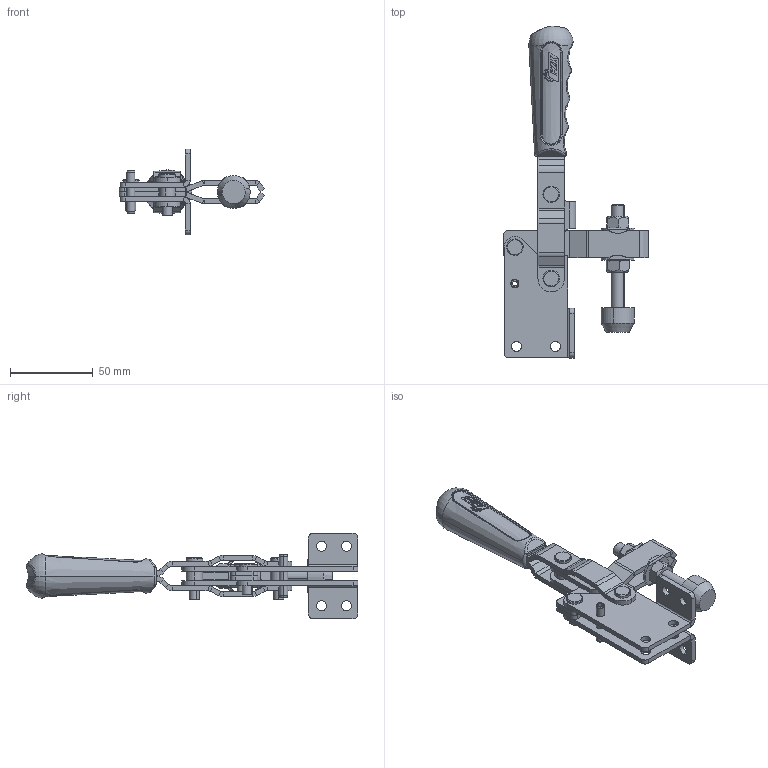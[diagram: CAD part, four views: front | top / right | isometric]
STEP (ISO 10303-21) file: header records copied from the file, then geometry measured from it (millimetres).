
FILE_DESCRIPTION (( 'STEP AP214' ), '1' );
FILE_NAME ('202_YU.STEP', '2024-09-09T16:28:54', ( '' ), ( '' ), 'SwSTEP 2.0', 'SolidWorks 2023', '' );
FILE_SCHEMA (( 'AUTOMOTIVE_DESIGN' ));
Length unit declared in the file: millimetre
Products named in the file (17): DIN EN ISO 7719 - M8 - C_1; FZK_202_BU_02_00; FZK_202_B_04_00; FZK_202_Y_02_00; spring pin slotted_hd_iso_Spring Pin ISO 8752 - 5 x 26 - St; PUL ÇELİK M8 DIN 125; FZK_202_Y_01_00; M8 PABUÇ; FZK_202_B_05_00_202 B-06; FZK_202_B_07_00; TTMK_01_00; FZK_202_B_02A_00; FZK_202_B_06_00_202 B-07; hex screw gradeab_din_DIN EN 24017 - M8 x 70-N; FZK_202_B_02_00; 202_YU; FZK_202_BU_01_00
Assembly tree (22 placements, depth 3):
  202_YU
    FZK_202_B_02_00
      FZK_202_B_02A_00  x2
    TTMK_01_00
    FZK_202_B_04_00
    FZK_202_BU_01_00
    FZK_202_BU_02_00
    FZK_202_Y_01_00
    FZK_202_Y_02_00
    FZK_202_B_05_00_202 B-06  x2
    FZK_202_B_06_00_202 B-07  x2
    FZK_202_B_07_00  x2
    spring pin slotted_hd_iso_Spring Pin ISO 8752 - 5 x 26 - St
    DIN EN ISO 7719 - M8 - C_1  x2
    PUL ÇELİK M8 DIN 125  x2
    M8 PABUÇ
    hex screw gradeab_din_DIN EN 24017 - M8 x 70-N
Bounding box: 88 x 200.84 x 52 mm (x, y, z)
Volume: 82248.8 mm3; surface area: 55718.5 mm2
Topology: 21 solids, 21 shells, 830 faces, 1953 edges, 1175 vertices
Faces by surface type: plane 260, cylinder 238, bspline 219, cone 85, sphere 20, torus 8
Entity records: 32889 total; most frequent: CARTESIAN_POINT 18270, ORIENTED_EDGE 3220, DIRECTION 2412, EDGE_CURVE 1610, VERTEX_POINT 987, AXIS2_PLACEMENT_3D 955, EDGE_LOOP 747, FACE_OUTER_BOUND 673
